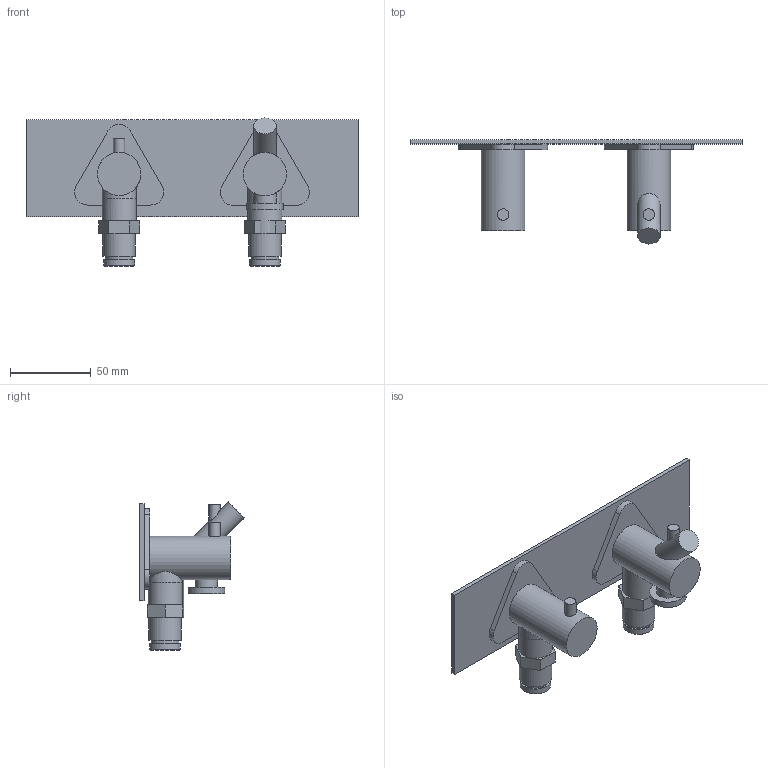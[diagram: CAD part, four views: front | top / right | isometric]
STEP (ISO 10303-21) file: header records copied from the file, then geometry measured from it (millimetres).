
FILE_DESCRIPTION(('STEP AP214'),'1');
FILE_NAME('Instaset_7874.STP','2025-09-23T12:47:27',(' '),(' '),'Spatial InterOp 3D',' ',' ');
FILE_SCHEMA(('AUTOMOTIVE_DESIGN { 1 0 10303 214 1 1 1 1 }'));
Length unit declared in the file: millimetre
Products named in the file (1): Quader
Bounding box: 205 x 64.27 x 91.44 mm (x, y, z)
Volume: 146948.7 mm3; surface area: 59651.5 mm2
Topology: 14 solids, 14 shells, 84 faces, 151 edges, 101 vertices
Faces by surface type: plane 60, cylinder 22, cone 2
Full cylindrical faces by diameter (mm): 7 x2, 13.867 x1, 14 x1, 17 x2, 19 x2, 20 x2, 20.956 x1, 21 x2, 22.622 x1, 26.818 x2
Entity records: 2460 total; most frequent: CARTESIAN_POINT 712, DIRECTION 361, ORIENTED_EDGE 252, AXIS2_PLACEMENT_3D 143, EDGE_CURVE 126, EDGE_LOOP 108, VERTEX_POINT 94, ADVANCED_FACE 84
